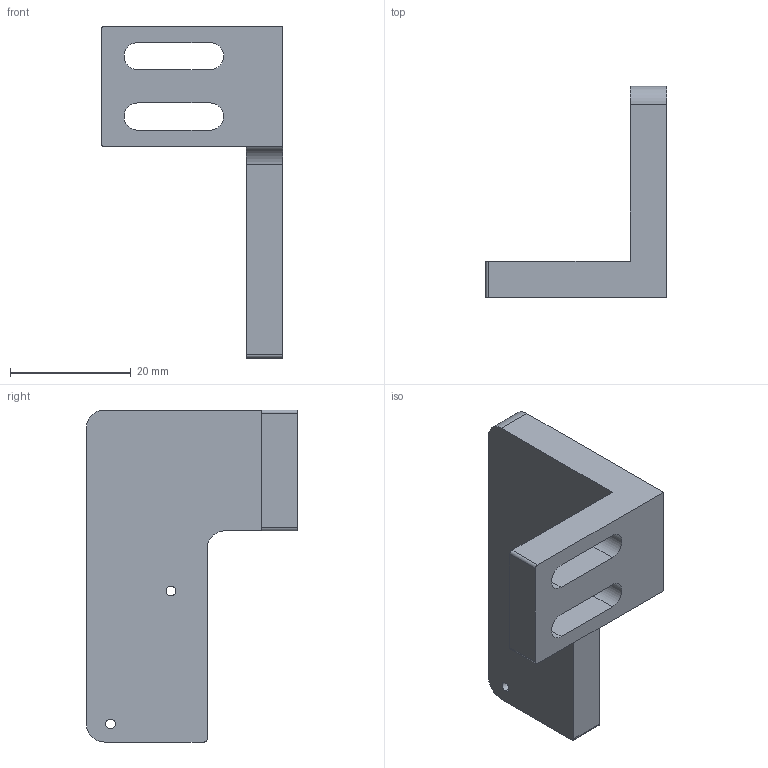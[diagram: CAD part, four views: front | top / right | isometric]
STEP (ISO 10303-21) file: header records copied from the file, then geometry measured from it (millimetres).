
FILE_DESCRIPTION (( 'STEP AP214' ), '1' );
FILE_NAME ('Pos.17 Referenzschalterstück Z-Achse.STEP', '2017-03-12T09:47:26', ( 'C.Loibl@hotmail.com' ), ( '' ), 'SwSTEP 2.0', 'SolidWorks 2015', '' );
FILE_SCHEMA (( 'AUTOMOTIVE_DESIGN' ));
Length unit declared in the file: millimetre
Products named in the file (1): Pos.17 Referenzschalterstück Z-Achse
Bounding box: 30 x 35 x 55 mm (x, y, z)
Volume: 10404.5 mm3; surface area: 5327.1 mm2
Topology: 1 solids, 1 shells, 30 faces, 84 edges, 56 vertices
Faces by surface type: cylinder 16, plane 14
Entity records: 1074 total; most frequent: DIRECTION 178, CARTESIAN_POINT 171, ORIENTED_EDGE 168, EDGE_CURVE 84, AXIS2_PLACEMENT_3D 63, VERTEX_POINT 56, VECTOR 52, LINE 52
